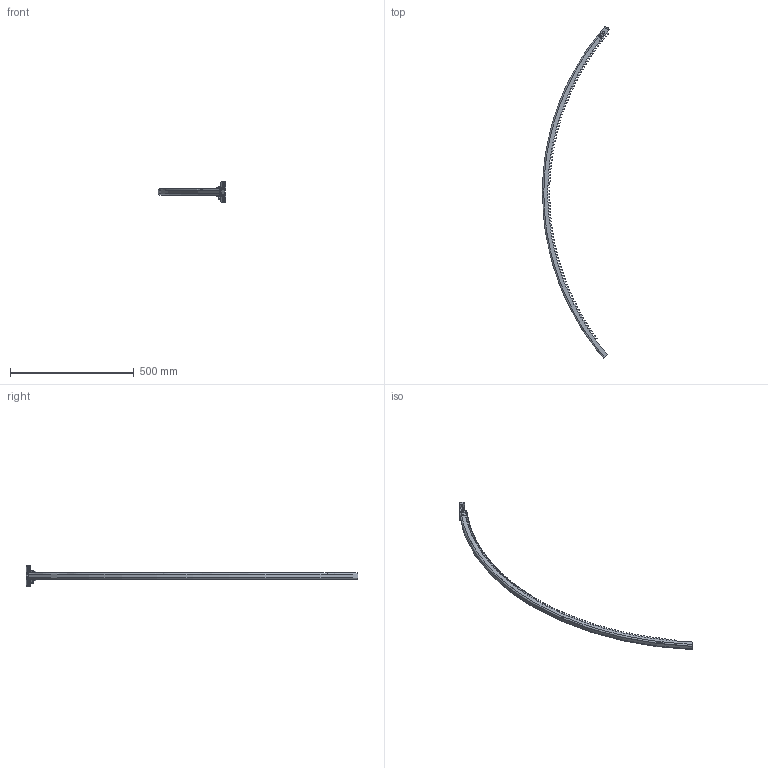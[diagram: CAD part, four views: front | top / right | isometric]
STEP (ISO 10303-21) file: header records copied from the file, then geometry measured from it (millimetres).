
FILE_DESCRIPTION (( 'STEP AP214' ), '1' );
FILE_NAME ('010185365_EZD_3D-Modell_DE_61555.0512.1465_10185365.STEP', '2018-12-11T14:53:43', ( '' ), ( '' ), 'SwSTEP 2.0', 'SolidWorks 2018', '' );
FILE_SCHEMA (( 'AUTOMOTIVE_DESIGN' ));
Length unit declared in the file: millimetre
Products named in the file (6): 010185365_EZD_3D-Modell_DE_61555.0512.1465_10185365; Mutter_10001793_Standard; Zahnstange_10146133_Standard; Montageplatte_10148566_Standard; Schraube_10148565_ISO 4017 - M6 x 50-N; Montageplatte_10140229_Standard
Assembly tree (5 placements, depth 3):
  010185365_EZD_3D-Modell_DE_61555.0512.1465_10185365
    Zahnstange_10146133_Standard
    Montageplatte_10148566_Standard
      Montageplatte_10140229_Standard
      Schraube_10148565_ISO 4017 - M6 x 50-N
      Mutter_10001793_Standard
Bounding box: 271.7 x 1341.97 x 85 mm (x, y, z)
Volume: 302611.2 mm3; surface area: 217424 mm2
Topology: 4 solids, 4 shells, 1313 faces, 3851 edges, 2556 vertices
Faces by surface type: plane 981, cylinder 302, cone 20, torus 10
Entity records: 43625 total; most frequent: CARTESIAN_POINT 7909, ORIENTED_EDGE 7702, DIRECTION 7111, EDGE_CURVE 3851, LINE 3163, VECTOR 3163, VERTEX_POINT 2556, AXIS2_PLACEMENT_3D 1974
